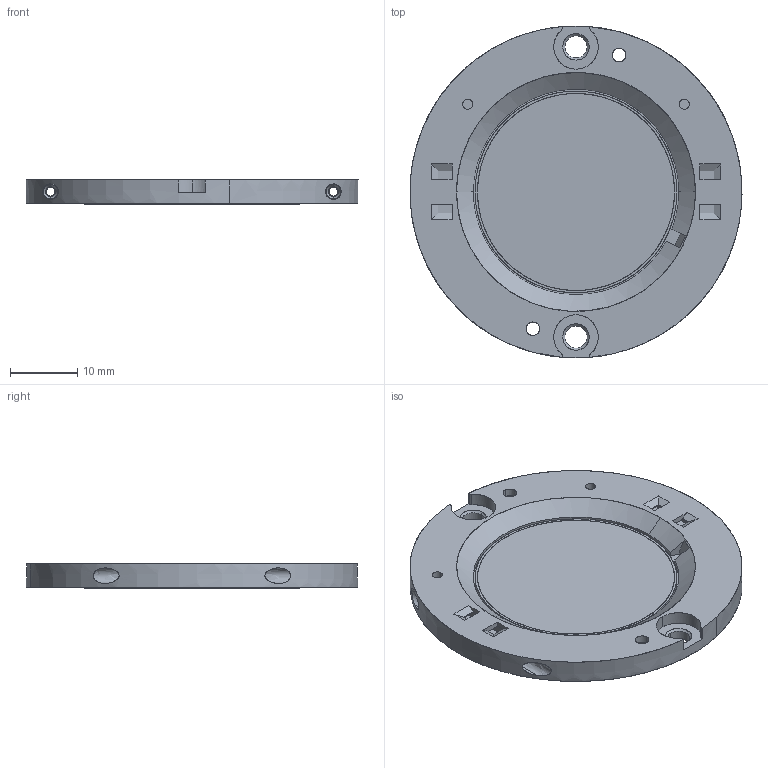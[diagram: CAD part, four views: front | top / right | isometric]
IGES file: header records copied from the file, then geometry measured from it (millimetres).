
Start section: SolidWorks IGES file using analytic representation for surfaces
Global section: file name: C:\Users\Public\Documents\Vero SE Release Customer Files\BJB11\BJB3_11\Bridgelux-VeroSE29-M-IGS-17-000021.IGS; native system: SolidWorks 2016; preprocessor: SolidWorks 2016; author: Brandon; date: 161104.080451; units: millimetre
Bounding box: 49.19 x 49.18 x 3.6 mm (x, y, z)
Surface area: 6249.7 mm2 (no closed solid volume)
Topology: 0 solids, 0 shells, 214 faces, 2844 edges, 2844 vertices
Faces by surface type: bspline 150, revolution 64
